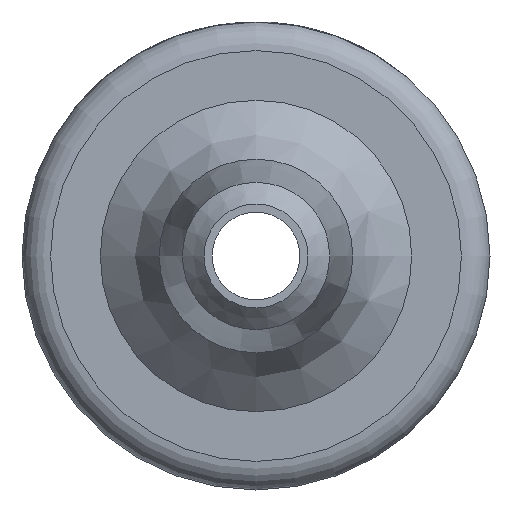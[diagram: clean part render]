
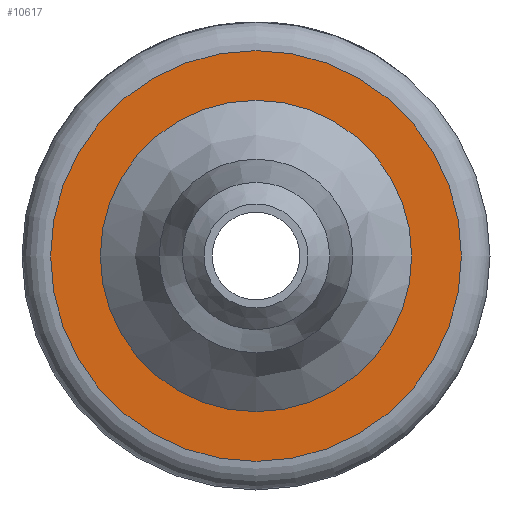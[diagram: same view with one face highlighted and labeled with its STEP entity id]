
A CAD part, left-side view. The second image highlights one B-rep face of the part: STEP entity #10617.
In plain terms, the highlighted planar face has unit normal (-1, 0, 0).
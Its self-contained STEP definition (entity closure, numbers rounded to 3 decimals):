
#10583=CARTESIAN_POINT('',(-16.867,-1.652,0.0));
#10584=VERTEX_POINT('',#10583);
#10585=CARTESIAN_POINT('',(-16.867,1.158,0.0));
#10586=DIRECTION('',(-1.0,0.0,0.0));
#10587=DIRECTION('',(0.0,-1.0,0.0));
#10588=AXIS2_PLACEMENT_3D('',#10585,#10586,#10587);
#10589=CIRCLE('',#10588,2.81);
#10590=EDGE_CURVE('',#10584,#10584,#10589,.T.);
#10598=CARTESIAN_POINT('',(-16.867,-1.312,0.0));
#10599=DIRECTION('',(-1.0,0.0,0.0));
#10600=DIRECTION('',(0.0,0.0,1.0));
#10601=AXIS2_PLACEMENT_3D('',#10598,#10599,#10600);
#10602=PLANE('',#10601);
#10603=ORIENTED_EDGE('',*,*,#10590,.T.);
#10604=EDGE_LOOP('',(#10603));
#10605=FACE_OUTER_BOUND('',#10604,.T.);
#10606=CARTESIAN_POINT('',(-16.867,-0.972,0.0));
#10607=VERTEX_POINT('',#10606);
#10608=CARTESIAN_POINT('',(-16.867,1.158,0.0));
#10609=DIRECTION('',(-1.0,0.0,0.0));
#10610=DIRECTION('',(0.0,-1.0,0.0));
#10611=AXIS2_PLACEMENT_3D('',#10608,#10609,#10610);
#10612=CIRCLE('',#10611,2.13);
#10613=EDGE_CURVE('',#10607,#10607,#10612,.T.);
#10614=ORIENTED_EDGE('',*,*,#10613,.F.);
#10615=EDGE_LOOP('',(#10614));
#10616=FACE_BOUND('',#10615,.T.);
#10617=ADVANCED_FACE('',(#10605,#10616),#10602,.T.);
